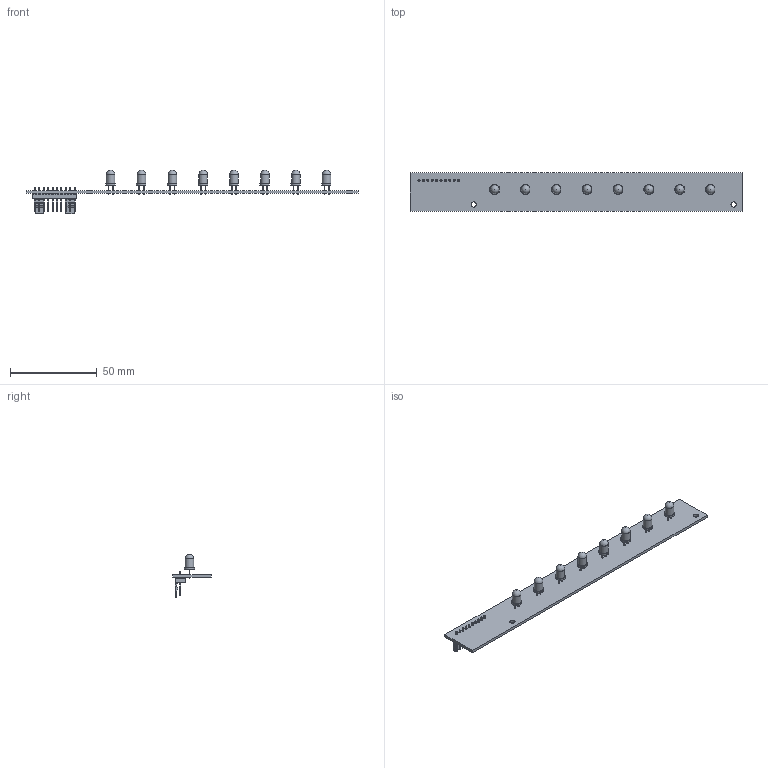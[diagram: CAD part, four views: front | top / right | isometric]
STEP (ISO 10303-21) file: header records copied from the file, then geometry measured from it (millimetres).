
FILE_DESCRIPTION(('KiCad electronic assembly'),'2;1');
FILE_NAME('LED Controller Vertical.step','2023-10-07T22:18:19',('Pcbnew' ),('Kicad'),'Open CASCADE STEP processor 7.6', 'KiCad to STEP converter','Unknown');
FILE_SCHEMA(('AUTOMOTIVE_DESIGN { 1 0 10303 214 1 1 1 1 }'));
Length unit declared in the file: millimetre
Products named in the file (6): LED Controller Vertical 1; LED_D5.0mm; SOLID; Molex_KK-254_AE-6410-10A_1x10_P2.54mm_Vertical; LED Controller Vertical PCB
Assembly tree (12 placements, depth 3):
  LED Controller Vertical 1
    LED_D5.0mm  x8
      SOLID
    Molex_KK-254_AE-6410-10A_1x10_P2.54mm_Vertical
      SOLID
    LED Controller Vertical PCB
Bounding box: 191.59 x 22.4 x 25 mm (x, y, z)
Volume: 8589.9 mm3; surface area: 11974.7 mm2
Topology: 10 solids, 10 shells, 444 faces, 1076 edges, 688 vertices
Faces by surface type: plane 390, cylinder 46, sphere 8
Full cylindrical faces by diameter (mm): 0.9 x16, 1.19 x10, 3 x2, 4.9 x8
Entity records: 23094 total; most frequent: CARTESIAN_POINT 3794, DIRECTION 3182, LINE 2359, VECTOR 2359, ORIENTED_EDGE 1660, PCURVE 1660, DEFINITIONAL_REPRESENTATION 1660, EDGE_CURVE 830
